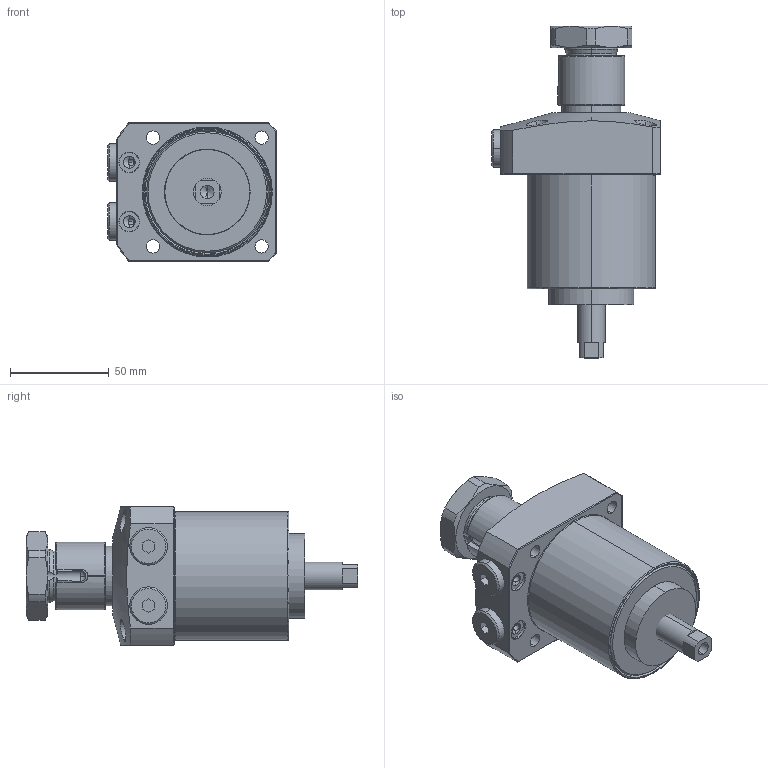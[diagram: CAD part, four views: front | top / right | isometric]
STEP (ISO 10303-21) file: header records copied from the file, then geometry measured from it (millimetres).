
FILE_DESCRIPTION (( 'STEP AP203' ), '1' );
FILE_NAME ('20500-CL-D.STEP', '2020-06-10T01:23:40', ( '微软用户' ), ( '微软中国' ), 'SwSTEP 2.0', 'SolidWorks 2014', '' );
FILE_SCHEMA (( 'CONFIG_CONTROL_DESIGN' ));
Length unit declared in the file: millimetre
Products named in the file (7): 20500-1^20500-CL-D; 20500-02^20500-CL-D; 20500-03^20500-CL-D; 20500-04^20500-CL-D; 20500-05^20500-CL-D; 20500-C-P-4^20500-CL-D; 20500-CL-D
Assembly tree (7 placements, depth 2):
  20500-CL-D
    20500-1^20500-CL-D
    20500-02^20500-CL-D
    20500-03^20500-CL-D
    20500-04^20500-CL-D
    20500-05^20500-CL-D
    20500-C-P-4^20500-CL-D  x2
Bounding box: 85.5 x 168 x 70 mm (x, y, z)
Volume: 423655.1 mm3; surface area: 62610.6 mm2
Topology: 7 solids, 7 shells, 236 faces, 571 edges, 360 vertices
Faces by surface type: plane 86, cylinder 79, cone 51, torus 18, sphere 2
Entity records: 8159 total; most frequent: CARTESIAN_POINT 2159, DIRECTION 1129, ORIENTED_EDGE 1078, EDGE_CURVE 539, AXIS2_PLACEMENT_3D 457, VERTEX_POINT 342, EDGE_LOOP 251, CIRCLE 224
